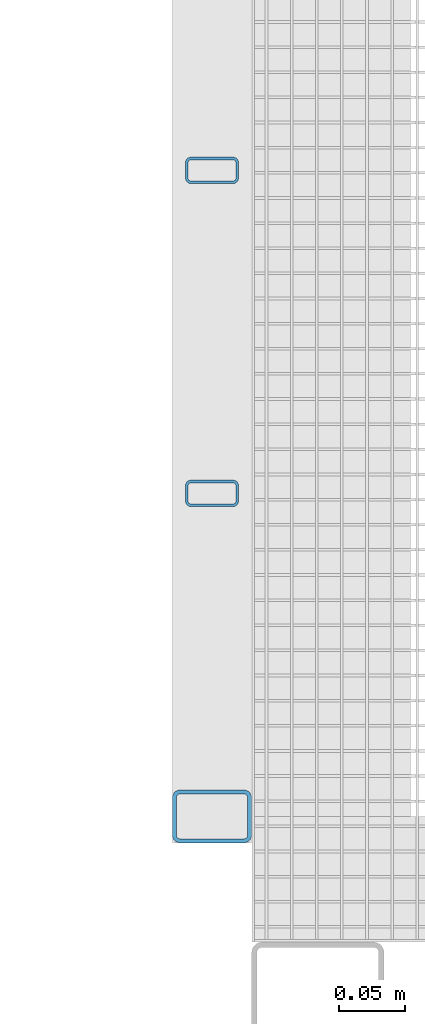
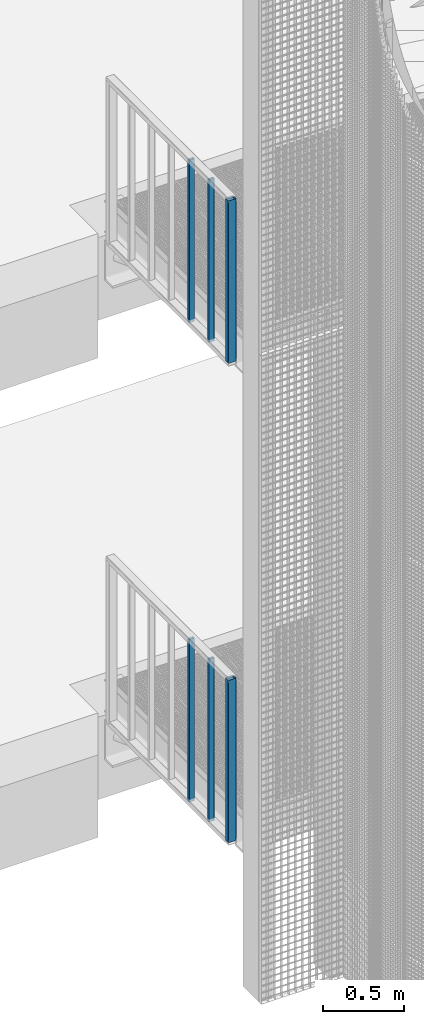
# One storey, part 54 of 1183: 6 columns, 6 elements without a shape of their own.
"""IFC2X3 building model written with IfcOpenShell, lengths in millimetres."""

from ifc_helpers import new_model, si_unit, frame, origin_with_axes, origin_2d_with_axis, place, context, subcontext, project, spatial, hollow_rectangle, extrude, material, type_object, element, aggregate, save


model = new_model("IFC2X3")

# Units and contexts
model_context = context("Model", 3, precision=1e-05, world=origin_with_axes())
body_context = subcontext(model_context, "Body", "Model", "MODEL_VIEW")
ifc_project = project(units=[si_unit("LENGTHUNIT", "METRE", prefix="MILLI"), si_unit("AREAUNIT", "SQUARE_METRE"), si_unit("VOLUMEUNIT", "CUBIC_METRE"), si_unit("MASSUNIT", "GRAM", prefix="KILO"), si_unit("TIMEUNIT", "SECOND"), si_unit("PLANEANGLEUNIT", "RADIAN"), si_unit("SOLIDANGLEUNIT", "STERADIAN"), si_unit("THERMODYNAMICTEMPERATUREUNIT", "DEGREE_CELSIUS"), si_unit("LUMINOUSINTENSITYUNIT", "LUMEN")], contexts=[model_context])

# Site, building, storey
site_placement = place(None, origin_with_axes())
site = spatial("IfcSite", under=ifc_project, at=site_placement, Name="Undefined", CompositionType="ELEMENT")
building_placement = place(site_placement, origin_with_axes())
building = spatial("IfcBuilding", under=site, at=building_placement, Name="Undefined", CompositionType="ELEMENT")
storey_placement = place(building_placement, origin_with_axes())
storey = spatial("IfcBuildingStorey", under=building, at=storey_placement, Name="Undefined", CompositionType="ELEMENT", Elevation=0.0)

# Assembly, column
assembly_1_placement = place(storey_placement, origin_with_axes())
assembly_1 = element("IfcElementAssembly", 1, at=assembly_1_placement, inside=storey, Name="STANCHION", AssemblyPlace="NOTDEFINED", PredefinedType="NOTDEFINED")
ifc_material = material(Name="Undefined/FE510D")
column_type_1 = type_object("IfcColumnType", Name="TUBE-R-40*20*2", PredefinedType="NOTDEFINED")
column_1_placement = place(assembly_1_placement, frame((20019.9317958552, 1683.34979617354, 9820.0), z_axis=(0.0, 0.0, 1.0), x_axis=(-0.999999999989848, 4.50600000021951e-06, 0.0)))
column_1 = element("IfcColumn", 2, at=column_1_placement, type_object=column_type_1, material=ifc_material, Name="STANCHION", context=body_context, shape_type="SweptSolid", body=[
    extrude(hollow_rectangle(XDim=20.0, YDim=40.0, WallThickness=2.0, InnerFilletRadius=2.0, OuterFilletRadius=4.0, at=origin_2d_with_axis()), frame((0.0, 0.0, 1219.99999999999), z_axis=(0.0, 0.0, -1.0), x_axis=(0.0, 1.0, 0.0)), (0.0, 0.0, 1.0), 1220.0),
])
aggregate(assembly_1, [column_1])

assembly_2_placement = place(storey_placement, origin_with_axes())
assembly_2 = element("IfcElementAssembly", 3, at=assembly_2_placement, inside=storey, Name="STANCHION", AssemblyPlace="NOTDEFINED", PredefinedType="NOTDEFINED")
column_2_placement = place(assembly_2_placement, frame((20019.9306956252, 1439.17979617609, 9820.0), z_axis=(0.0, 0.0, 1.0), x_axis=(-0.999999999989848, 4.50600000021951e-06, 0.0)))
column_2 = element("IfcColumn", 4, at=column_2_placement, type_object=column_type_1, material=ifc_material, Name="STANCHION", context=body_context, shape_type="SweptSolid", body=[
    extrude(hollow_rectangle(XDim=20.0, YDim=40.0, WallThickness=2.0, InnerFilletRadius=2.0, OuterFilletRadius=4.0, at=origin_2d_with_axis()), frame((0.0, 0.0, 1219.99999999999), z_axis=(0.0, 0.0, -1.0), x_axis=(0.0, 1.0, 0.0)), (0.0, 0.0, 1.0), 1220.0),
])
aggregate(assembly_2, [column_2])

assembly_3_placement = place(storey_placement, origin_with_axes())
assembly_3 = element("IfcElementAssembly", 5, at=assembly_3_placement, inside=storey, Name="STANCHION", AssemblyPlace="NOTDEFINED", PredefinedType="NOTDEFINED")
column_3_placement = place(assembly_3_placement, frame((20019.9317958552, 1683.34979617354, 6220.0), z_axis=(0.0, 0.0, 1.0), x_axis=(-0.999999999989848, 4.50600000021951e-06, 0.0)))
column_3 = element("IfcColumn", 6, at=column_3_placement, type_object=column_type_1, material=ifc_material, Name="STANCHION", context=body_context, shape_type="SweptSolid", body=[
    extrude(hollow_rectangle(XDim=20.0, YDim=40.0, WallThickness=2.0, InnerFilletRadius=2.0, OuterFilletRadius=4.0, at=origin_2d_with_axis()), frame((0.0, 0.0, 1219.99999999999), z_axis=(0.0, 0.0, -1.0), x_axis=(0.0, 1.0, 0.0)), (0.0, 0.0, 1.0), 1220.0),
])
aggregate(assembly_3, [column_3])

assembly_4_placement = place(storey_placement, origin_with_axes())
assembly_4 = element("IfcElementAssembly", 7, at=assembly_4_placement, inside=storey, Name="STANCHION", AssemblyPlace="NOTDEFINED", PredefinedType="NOTDEFINED")
column_4_placement = place(assembly_4_placement, frame((20019.9306956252, 1439.17979617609, 6220.0), z_axis=(0.0, 0.0, 1.0), x_axis=(-0.999999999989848, 4.50600000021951e-06, 0.0)))
column_4 = element("IfcColumn", 8, at=column_4_placement, type_object=column_type_1, material=ifc_material, Name="STANCHION", context=body_context, shape_type="SweptSolid", body=[
    extrude(hollow_rectangle(XDim=20.0, YDim=40.0, WallThickness=2.0, InnerFilletRadius=2.0, OuterFilletRadius=4.0, at=origin_2d_with_axis()), frame((0.0, 0.0, 1219.99999999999), z_axis=(0.0, 0.0, -1.0), x_axis=(0.0, 1.0, 0.0)), (0.0, 0.0, 1.0), 1220.0),
])
aggregate(assembly_4, [column_4])

assembly_5_placement = place(storey_placement, origin_with_axes())
assembly_5 = element("IfcElementAssembly", 9, at=assembly_5_placement, inside=storey, Name="STANCHION", AssemblyPlace="NOTDEFINED", PredefinedType="NOTDEFINED")
column_type_2 = type_object("IfcColumnType", Name="TUBE-R-60*40*3", PredefinedType="NOTDEFINED")
column_5_placement = place(assembly_5_placement, frame((20019.9295654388, 1195.01007484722, 9820.0), z_axis=(0.0, 0.0, 1.0), x_axis=(-0.999999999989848, 4.50600000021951e-06, 0.0)))
column_5 = element("IfcColumn", 10, at=column_5_placement, type_object=column_type_2, material=ifc_material, Name="STANCHION", context=body_context, shape_type="SweptSolid", body=[
    extrude(hollow_rectangle(XDim=40.0, YDim=60.0, WallThickness=3.0, InnerFilletRadius=3.0, OuterFilletRadius=6.0, at=origin_2d_with_axis()), frame((0.0, 0.0, 1219.99999999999), z_axis=(0.0, 0.0, -1.0), x_axis=(0.0, 1.0, 0.0)), (0.0, 0.0, 1.0), 1220.0),
])
aggregate(assembly_5, [column_5])

assembly_6_placement = place(storey_placement, origin_with_axes())
assembly_6 = element("IfcElementAssembly", 11, at=assembly_6_placement, inside=storey, Name="STANCHION", AssemblyPlace="NOTDEFINED", PredefinedType="NOTDEFINED")
column_6_placement = place(assembly_6_placement, frame((20019.9295654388, 1195.01007484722, 6220.0), z_axis=(0.0, 0.0, 1.0), x_axis=(-0.999999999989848, 4.50600000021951e-06, 0.0)))
column_6 = element("IfcColumn", 12, at=column_6_placement, type_object=column_type_2, material=ifc_material, Name="STANCHION", context=body_context, shape_type="SweptSolid", body=[
    extrude(hollow_rectangle(XDim=40.0, YDim=60.0, WallThickness=3.0, InnerFilletRadius=3.0, OuterFilletRadius=6.0, at=origin_2d_with_axis()), frame((0.0, 0.0, 1219.99999999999), z_axis=(0.0, 0.0, -1.0), x_axis=(0.0, 1.0, 0.0)), (0.0, 0.0, 1.0), 1220.0),
])
aggregate(assembly_6, [column_6])

save(model, "model.ifc")
